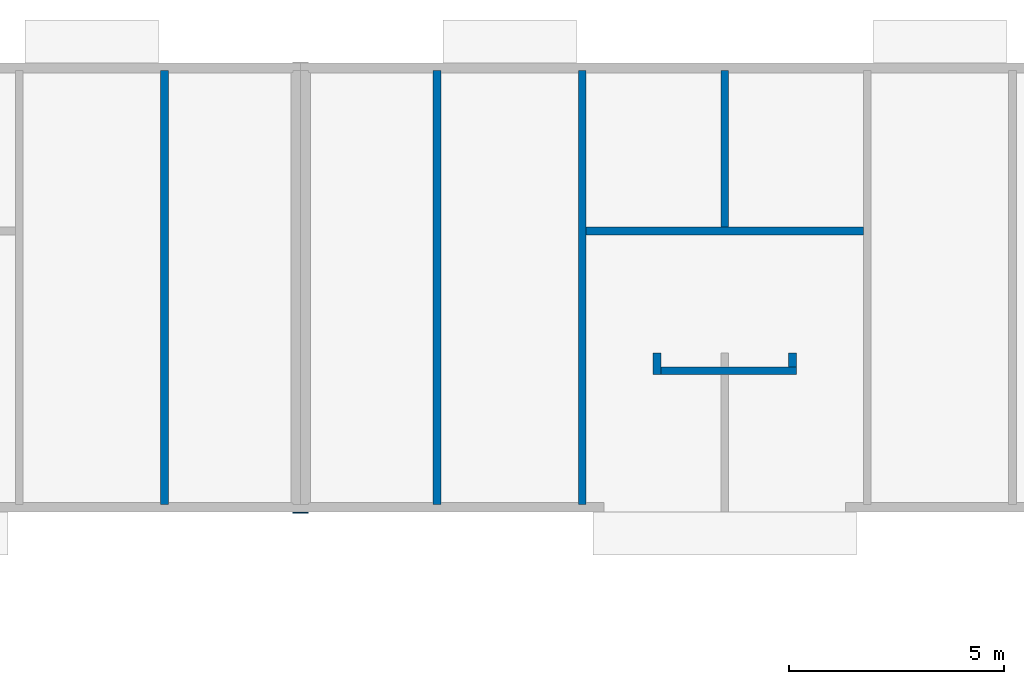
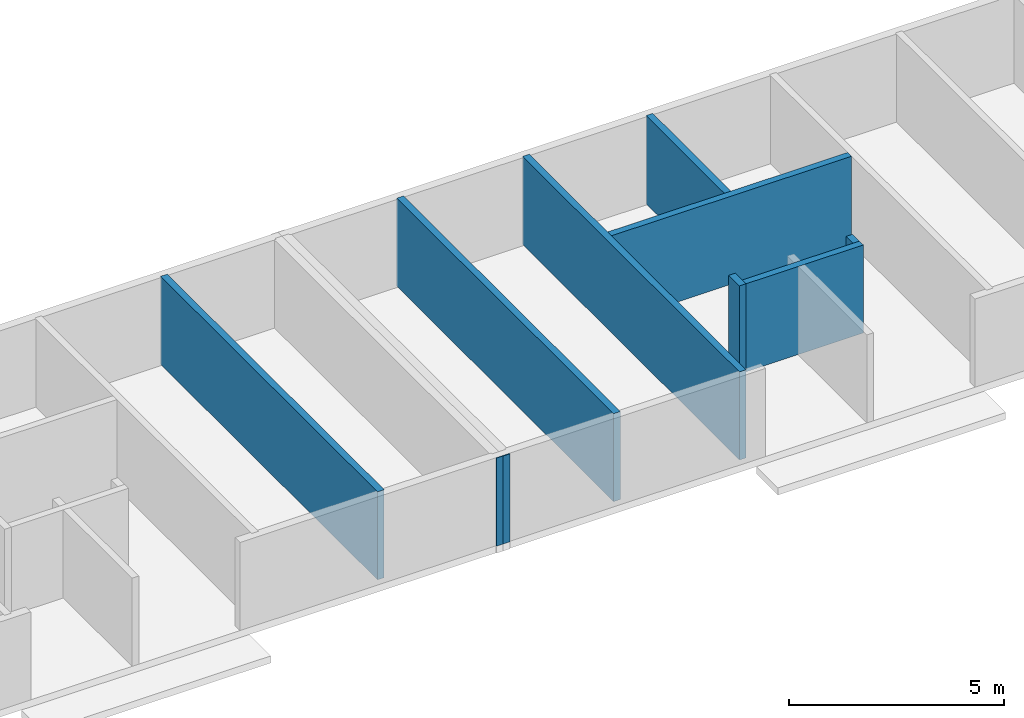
# One storey, part 3 of 10: 10 walls.
"""IFC2X3 building model written with IfcOpenShell, lengths in metres."""

from ifc_helpers import new_model, si_unit, frame, frame_2d, origin, origin_with_axes, place, context, project, spatial, rectangle, extrude, element, save


model = new_model("IFC2X3")

# Units and contexts
model_context = context("Model", 3, precision=1e-06, world=origin())
ifc_project = project(units=[si_unit("LENGTHUNIT", "METRE"), si_unit("PLANEANGLEUNIT", "RADIAN")], contexts=[model_context])

# Site, building, storey
site = spatial("IfcSite", under=ifc_project, CompositionType="ELEMENT")
building = spatial("IfcBuilding", under=site, CompositionType="ELEMENT")
storey = spatial("IfcBuildingStorey", under=building, Name="r+1", CompositionType="ELEMENT", Elevation=2.7)

# Walls
placement = place(None, origin())
wall_1_placement = place(placement, frame((32.939999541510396, 6.650077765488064, 2.7), z_axis=(0.0, 0.0, 1.0), x_axis=(-1.0, 0.0, 0.0)))
element("IfcWall", 1, at=wall_1_placement, inside=storey, context=model_context, shape_type="SweptSolid", body=[
    extrude(rectangle(XDim=6.449999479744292, YDim=0.18, at=frame_2d((3.224999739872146, 0.09), x_axis=(1.0, 0.0)), kind="CURVE"), origin_with_axes(), (0.0, 0.0, 1.0), 2.5),
])
wall_2_placement = place(placement, frame((31.19999951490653, 3.720077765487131, 2.7), z_axis=(0.0, 0.0, 1.0), x_axis=(0.0, -1.0, 0.0)))
element("IfcWall", 2, at=wall_2_placement, inside=storey, context=model_context, shape_type="SweptSolid", body=[
    extrude(rectangle(XDim=0.32, YDim=0.18, at=frame_2d((0.16, 0.09), x_axis=(1.0, 0.0)), kind="CURVE"), origin_with_axes(), (0.0, 0.0, 1.0), 2.5),
])
wall_3_placement = place(placement, frame((20.029999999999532, 2e-15, 2.7), z_axis=(0.0, 0.0, 1.0), x_axis=(-1.0, 0.0, 0.0)))
element("IfcWall", 3, at=wall_3_placement, inside=storey, context=model_context, shape_type="SweptSolid", body=[
    extrude(rectangle(XDim=0.18, YDim=0.020162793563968, at=frame_2d((0.09, 0.010081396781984), x_axis=(1.0, 0.0)), kind="CURVE"), frame((0.0, -0.020162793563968, 0.0), z_axis=(0.0, 0.0, 1.0), x_axis=(1.0, 0.0, 0.0)), (0.0, 0.0, 1.0), 2.5),
])
for number, where, z_axis, x_axis in (
    (4, (23.10999999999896, 0.200077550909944, 2.7), (0.0, 0.0, 1.0), (0.0, 1.0, 0.0)),
    (5, (26.49000006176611, 0.200077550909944, 2.7), (0.0, 0.0, 1.0), (0.0, 1.0, 0.0)),
):
    element("IfcWall", number, at=place(placement, frame(where, z_axis=z_axis, x_axis=x_axis)), inside=storey, context=model_context, shape_type="SweptSolid", body=[
        extrude(rectangle(XDim=10.090000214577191, YDim=0.18, at=frame_2d((5.045000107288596, 0.09), x_axis=(1.0, 0.0)), kind="CURVE"), origin_with_axes(), (0.0, 0.0, 1.0), 2.5),
    ])
wall_4_placement = place(placement, frame((28.22999951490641, 3.220077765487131, 2.7), z_axis=(0.0, 0.0, 1.0), x_axis=(0.0, 1.0, 0.0)))
element("IfcWall", 6, at=wall_4_placement, inside=storey, context=model_context, shape_type="SweptSolid", body=[
    extrude(rectangle(XDim=0.5, YDim=0.18, at=frame_2d((0.25, 0.09), x_axis=(1.0, 0.0)), kind="CURVE"), origin_with_axes(), (0.0, 0.0, 1.0), 2.5),
])
wall_5_placement = place(placement, frame((29.80499999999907, 6.650077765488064, 2.7), z_axis=(0.0, 0.0, 1.0), x_axis=(0.0, 1.0, 0.0)))
element("IfcWall", 7, at=wall_5_placement, inside=storey, context=model_context, shape_type="SweptSolid", body=[
    extrude(rectangle(XDim=3.639999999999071, YDim=0.18, at=frame_2d((1.819999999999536, 0.09), x_axis=(1.0, 0.0)), kind="CURVE"), origin_with_axes(), (0.0, 0.0, 1.0), 2.5),
])
wall_6_placement = place(placement, frame((19.849999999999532, 2e-15, 2.7), z_axis=(0.0, 0.0, 1.0), x_axis=(-1.0, 0.0, 0.0)))
element("IfcWall", 8, at=wall_6_placement, inside=storey, context=model_context, shape_type="SweptSolid", body=[
    extrude(rectangle(XDim=0.18, YDim=0.020162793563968, at=frame_2d((0.09, 0.010081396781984), x_axis=(1.0, 0.0)), kind="CURVE"), frame((0.0, -0.020162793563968, 0.0), z_axis=(0.0, 0.0, 1.0), x_axis=(1.0, 0.0, 0.0)), (0.0, 0.0, 1.0), 2.5),
])
wall_7_placement = place(placement, frame((31.37999951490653, 3.400077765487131, 2.7), z_axis=(0.0, 0.0, 1.0), x_axis=(-1.0, 0.0, 0.0)))
element("IfcWall", 9, at=wall_7_placement, inside=storey, context=model_context, shape_type="SweptSolid", body=[
    extrude(rectangle(XDim=3.150000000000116, YDim=0.18, at=frame_2d((1.575000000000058, 0.09), x_axis=(1.0, 0.0)), kind="CURVE"), origin_with_axes(), (0.0, 0.0, 1.0), 2.5),
])
wall_8_placement = place(placement, frame((16.77000000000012, 0.200077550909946, 2.7), z_axis=(0.0, 0.0, 1.0), x_axis=(0.0, 1.0, 0.0)))
element("IfcWall", 10, at=wall_8_placement, inside=storey, context=model_context, shape_type="SweptSolid", body=[
    extrude(rectangle(XDim=10.090000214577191, YDim=0.18, at=frame_2d((5.045000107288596, 0.09), x_axis=(1.0, 0.0)), kind="CURVE"), origin_with_axes(), (0.0, 0.0, 1.0), 2.5),
])

save(model, "model.ifc")
